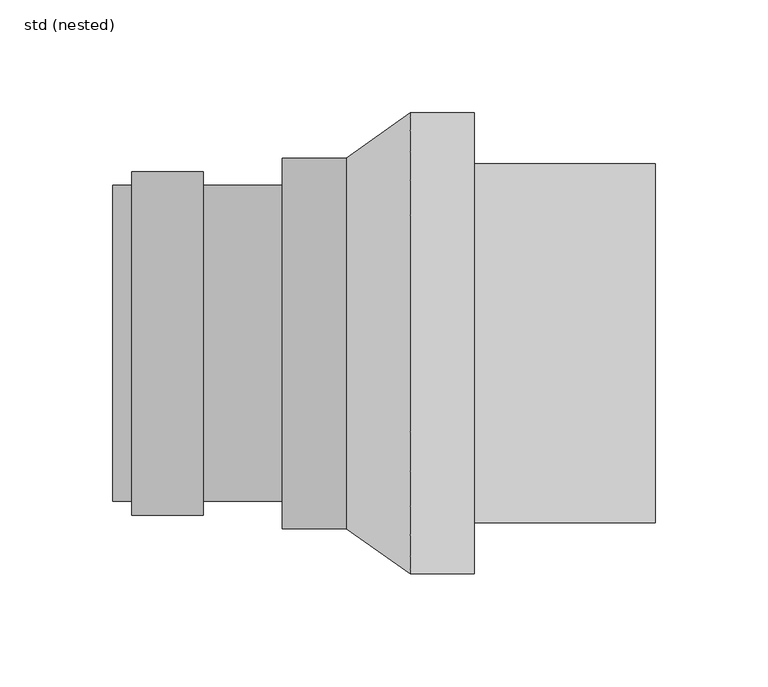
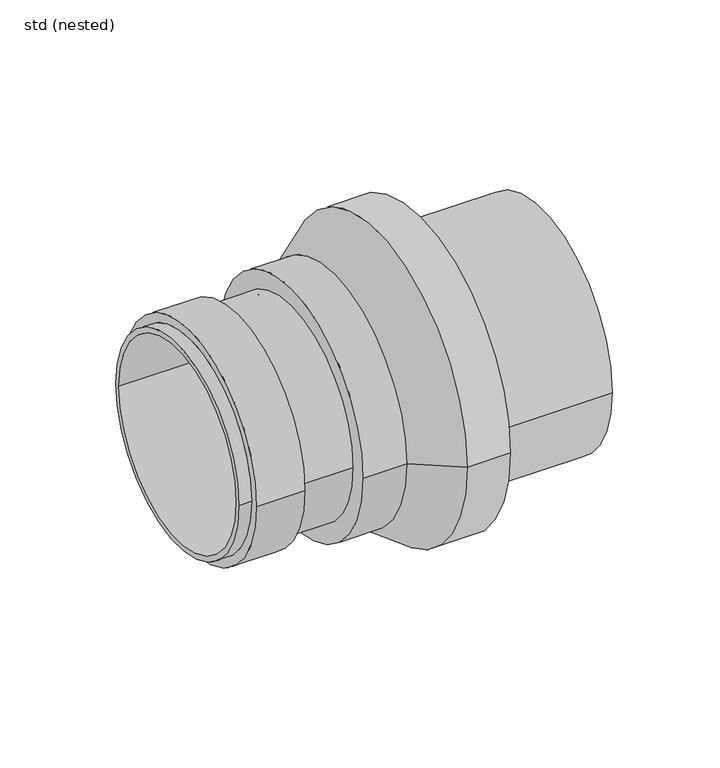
"""IFC4 building model written with IfcOpenShell, lengths in millimetres: pipe fitting geometry, ZZZ_do not use_PIF_ST_WPB_GM-X compound pipe reducer_ACO : std (nested)."""

from ifc_helpers import new_model, si_unit, point, frame, origin, origin_2d, place, context, project, spatial, polyline, circle_curve, trimmed, segment, composite_curve, outline, extrude, source, transform, mapped, element, save
from ifc_brep_helpers import plane_surface, cylinder_surface, revolved_surface, advanced_brep


def std_nested_95e7eb0f(model_context):
    return source(origin(), model_context, "Body", "SolidModel", [
        advanced_brep(
        [(-231.6, -76.0, 0.0), (-231.6, 76.0, 0.0), (-200.0, 76.0, 0.0), (-200.0, -76.0, 0.0), (-240.0, 70.0, 0.0), (-240.0, -70.0, 0.0), (-240.0, -66.5, 0.0), (-240.0, 66.5, 0.0), (-165.0, 70.0, 0.0), (-165.0, -70.0, 0.0), (-165.0, 66.5, 0.0), (-165.0, -66.5, 0.0), (-231.6, 70.0, 0.0), (-231.6, -70.0, 0.0), (-200.0, -70.0, 0.0), (-200.0, 70.0, 0.0)],
        [
            (0, 1, circle_curve(frame((-231.6, 0.0, 0.0), z_axis=(1.0, 0.0, 0.0), x_axis=(0.0, -1.0, 0.0)), 76.0)),
            (1, 2),
            (2, 3, circle_curve(frame((-200.0, 0.0, 0.0), z_axis=(-1.0, 0.0, 0.0), x_axis=(0.0, -1.0, 0.0)), 76.0)),
            (3, 0),
            (1, 0, circle_curve(frame((-231.6, 0.0, 0.0), z_axis=(1.0, 0.0, 0.0), x_axis=(0.0, -1.0, 0.0)), 76.0)),
            (3, 2, circle_curve(frame((-200.0, 0.0, 0.0), z_axis=(-1.0, 0.0, 0.0), x_axis=(0.0, -1.0, 0.0)), 76.0)),
            (4, 5, circle_curve(frame((-240.0, 0.0, 0.0), z_axis=(-1.0, 0.0, 0.0), x_axis=(0.0, -1.0, 0.0)), 70.0)),
            (5, 4, circle_curve(frame((-240.0, 0.0, 0.0), z_axis=(-1.0, 0.0, 0.0), x_axis=(0.0, -1.0, 0.0)), 70.0)),
            (6, 7, circle_curve(frame((-240.0, 0.0, 0.0), z_axis=(1.0, 0.0, 0.0), x_axis=(0.0, -1.0, 0.0)), 66.5)),
            (7, 6, circle_curve(frame((-240.0, 0.0, 0.0), z_axis=(1.0, 0.0, 0.0), x_axis=(0.0, -1.0, 0.0)), 66.5)),
            (8, 9, circle_curve(frame((-165.0, 0.0, 0.0), z_axis=(1.0, 0.0, 0.0), x_axis=(0.0, -1.0, 0.0)), 70.0)),
            (9, 8, circle_curve(frame((-165.0, 0.0, 0.0), z_axis=(1.0, 0.0, 0.0), x_axis=(0.0, -1.0, 0.0)), 70.0)),
            (10, 11, circle_curve(frame((-165.0, 0.0, 0.0), z_axis=(-1.0, 0.0, 0.0), x_axis=(0.0, -1.0, 0.0)), 66.5)),
            (11, 10, circle_curve(frame((-165.0, 0.0, 0.0), z_axis=(-1.0, 0.0, 0.0), x_axis=(0.0, -1.0, 0.0)), 66.5)),
            (4, 12),
            (12, 13, circle_curve(frame((-231.6, 0.0, 0.0), z_axis=(-1.0, 0.0, 0.0), x_axis=(0.0, -1.0, 0.0)), 70.0)),
            (13, 5),
            (9, 14),
            (14, 15, circle_curve(frame((-200.0, 0.0, 0.0), z_axis=(1.0, 0.0, 0.0), x_axis=(0.0, -1.0, 0.0)), 70.0)),
            (15, 8),
            (13, 12, circle_curve(frame((-231.6, 0.0, 0.0), z_axis=(-1.0, 0.0, 0.0), x_axis=(0.0, -1.0, 0.0)), 70.0)),
            (15, 14, circle_curve(frame((-200.0, 0.0, 0.0), z_axis=(1.0, 0.0, 0.0), x_axis=(0.0, -1.0, 0.0)), 70.0)),
            (6, 11),
            (10, 7),
        ],
        [
            cylinder_surface(frame((-200.0, 0.0, 0.0), z_axis=(-1.0, 0.0, 0.0), x_axis=(0.0, -1.0, 0.0)), 76.0),
            plane_surface(frame((-240.0, -70.0, 0.0), z_axis=(-1.0, 0.0, 0.0), x_axis=(0.0, 0.0, 1.0))),
            plane_surface(frame((-165.0, -70.0, 0.0), z_axis=(1.0, 0.0, 0.0), x_axis=(0.0, 0.0, -1.0))),
            cylinder_surface(frame((-165.0, 0.0, 0.0), z_axis=(-1.0, 0.0, 0.0), x_axis=(0.0, -1.0, 0.0)), 70.0),
            revolved_surface(polyline([(-240.0, -66.5, 0.0), (-165.0, -66.5, 0.0)]), (-165.0, 0.0, 0.0), (-1.0, 0.0, 0.0)),
            plane_surface(frame((-231.6, -76.0, 0.0), z_axis=(-1.0, 0.0, 0.0), x_axis=(0.0, 0.0, 1.0))),
            plane_surface(frame((-200.0, -76.0, 0.0), z_axis=(1.0, 0.0, 0.0), x_axis=(0.0, 0.0, -1.0))),
        ],
        [
            (0, [[1, 2, 3, 4]]),
            (0, [[5, -4, 6, -2]]),
            (1, [[7, 8], [9, 10]]),
            (2, [[11, 12], [13, 14]]),
            (3, [[-7, 15, 16, 17]]),
            (3, [[-12, 18, 19, 20]]),
            (3, [[-8, -17, 21, -15]]),
            (3, [[-11, -20, 22, -18]]),
            (4, [[23, -13, 24, -9]]),
            (4, [[-23, -10, -24, -14]]),
            (5, [[-1, -5], [-16, -21]]),
            (6, [[-6, -3], [-19, -22]]),
        ],
    ),
        advanced_brep(
        [(-136.6666667, -82.0, 0.0), (-136.6666667, 82.0, 0.0), (-165.0, 82.0, 0.0), (-165.0, -82.0, 0.0), (-108.3333333, 102.0, 0.0), (-108.3333333, -102.0, 0.0), (-80.0, 102.0, 0.0), (-80.0, -102.0, 0.0)],
        [
            (0, 1, circle_curve(frame((-136.6666667, 0.0, 0.0), z_axis=(-1.0, 0.0, 0.0), x_axis=(0.0, 1.0, 0.0)), 82.0)),
            (1, 2),
            (2, 3, circle_curve(frame((-165.0, 0.0, 0.0), z_axis=(1.0, 0.0, 0.0), x_axis=(0.0, 1.0, 0.0)), 82.0)),
            (3, 0),
            (1, 0, circle_curve(frame((-136.6666667, 0.0, 0.0), z_axis=(-1.0, 0.0, 0.0), x_axis=(0.0, 1.0, 0.0)), 82.0)),
            (3, 2, circle_curve(frame((-165.0, 0.0, 0.0), z_axis=(1.0, 0.0, 0.0), x_axis=(0.0, 1.0, 0.0)), 82.0)),
            (1, 4),
            (4, 5, circle_curve(frame((-108.3333333, 0.0, 0.0), z_axis=(-1.0, 0.0, 0.0), x_axis=(0.0, -1.0, 0.0)), 102.0)),
            (5, 0),
            (5, 4, circle_curve(frame((-108.3333333, 0.0, 0.0), z_axis=(-1.0, 0.0, 0.0), x_axis=(0.0, 1.0, 0.0)), 102.0)),
            (6, 7, circle_curve(frame((-80.0, 0.0, 0.0), z_axis=(1.0, 0.0, 0.0), x_axis=(0.0, -1.0, 0.0)), 102.0)),
            (7, 6, circle_curve(frame((-80.0, 0.0, 0.0), z_axis=(1.0, 0.0, 0.0), x_axis=(0.0, -1.0, 0.0)), 102.0)),
            (6, 4),
            (5, 7),
        ],
        [
            cylinder_surface(frame((-136.6666667, 0.0, 0.0), z_axis=(-1.0, 0.0, 0.0), x_axis=(0.0, 1.0, 0.0)), 82.0),
            plane_surface(frame((-165.0, 82.0, 0.0), z_axis=(-1.0, 0.0, 0.0), x_axis=(0.0, 0.0, 1.0))),
            revolved_surface(polyline([(-136.6666667, 81.99999995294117, 0.0), (-108.33333329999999, 102.0, 0.0)]), (-252.8333333, 0.0, 0.0), (1.0, 0.0, 0.0)),
            plane_surface(frame((-80.0, -102.0, 0.0), z_axis=(1.0, 0.0, 0.0), x_axis=(0.0, 0.0, -1.0))),
            cylinder_surface(frame((-108.3333333, 0.0, 0.0), z_axis=(1.0, 0.0, 0.0), x_axis=(0.0, -1.0, 0.0)), 102.0),
        ],
        [
            (0, [[1, 2, 3, 4]]),
            (0, [[5, -4, 6, -2]]),
            (1, [[-3, -6]]),
            (2, [[7, 8, 9, -5]]),
            (2, [[-7, -1, -9, 10]]),
            (3, [[11, 12]]),
            (4, [[-11, 13, -10, 14]]),
            (4, [[-12, -14, -8, -13]]),
        ],
    ),
        extrude(outline(composite_curve([segment(trimmed(circle_curve(origin_2d(), 79.5), [point((79.5, 0.0))], [point((-79.5, 0.0))], False, "CARTESIAN"), True, "CONTINUOUS"), segment(trimmed(circle_curve(origin_2d(), 79.5), [point((-79.5, 0.0))], [point((79.5, 0.0))], False, "CARTESIAN"), True, "CONTINUOUS")], self_intersect=False)), frame((-80.0, 0.0, 0.0), z_axis=(1.0, 0.0, 0.0), x_axis=(0.0, 1.0, 0.0)), (0.0, 0.0, 1.0), 80.0),
    ])


if __name__ == "__main__":
    model = new_model("IFC4")
    model_context = context("Model", 3, world=origin())
    ifc_project = project(units=[si_unit("LENGTHUNIT", "METRE", prefix="MILLI")], contexts=[model_context])
    site = spatial("IfcSite", under=ifc_project)
    building = spatial("IfcBuilding", under=site)
    placement = place(None, origin())
    std_nested_shape = std_nested_95e7eb0f(model_context)
    element("IfcPipeFitting", 1, ObjectType="ZZZ_do not use_PIF_ST_WPB_GM-X compound pipe reducer_ACO : std (nested)", at=placement, inside=building, context=model_context, shape_type="MappedRepresentation", body=[
        mapped(std_nested_shape, transform((0.0, 0.0, 0.0), x_axis=(1.0, 0.0, 0.0), y_axis=(0.0, 1.0, 0.0), z_axis=(0.0, 0.0, 1.0))),
    ])
    save(model, "model.ifc")
